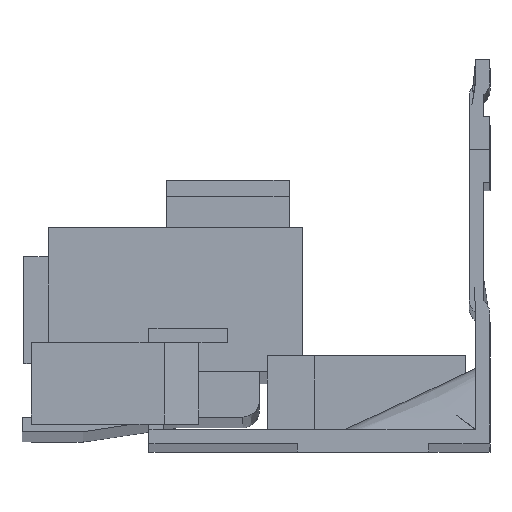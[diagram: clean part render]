
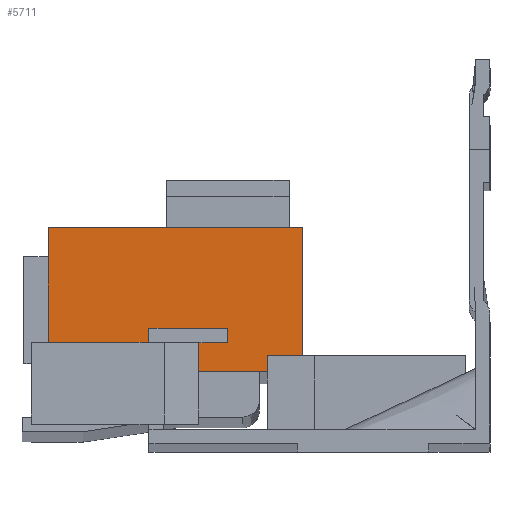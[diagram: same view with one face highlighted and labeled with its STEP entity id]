
A CAD part, front view. The second image highlights one B-rep face of the part: STEP entity #5711.
In plain terms, the highlighted planar face has unit normal (0, -1, 0).
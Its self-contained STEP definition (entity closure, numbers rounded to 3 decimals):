
#18 = VECTOR ( 'NONE', #4001, 1000. ) ;
#19 = LINE ( 'NONE', #4000, #18 ) ;
#86 = VECTOR ( 'NONE', #3959, 1000. ) ;
#87 = LINE ( 'NONE', #3958, #86 ) ;
#122 = VECTOR ( 'NONE', #3923, 1000. ) ;
#123 = LINE ( 'NONE', #3922, #122 ) ;
#124 = VECTOR ( 'NONE', #3921, 1000. ) ;
#125 = LINE ( 'NONE', #3920, #124 ) ;
#126 = VECTOR ( 'NONE', #3919, 1000. ) ;
#127 = LINE ( 'NONE', #3918, #126 ) ;
#128 = VECTOR ( 'NONE', #3917, 1000. ) ;
#129 = LINE ( 'NONE', #3916, #128 ) ;
#785 = ORIENTED_EDGE ( 'NONE', *, *, #2511, .T. ) ;
#786 = ORIENTED_EDGE ( 'NONE', *, *, #2509, .T. ) ;
#787 = ORIENTED_EDGE ( 'NONE', *, *, #2506, .T. ) ;
#788 = ORIENTED_EDGE ( 'NONE', *, *, #2504, .T. ) ;
#789 = ORIENTED_EDGE ( 'NONE', *, *, #2257, .T. ) ;
#790 = ORIENTED_EDGE ( 'NONE', *, *, #2228, .T. ) ;
#791 = ORIENTED_EDGE ( 'NONE', *, *, #2194, .F. ) ;
#792 = ORIENTED_EDGE ( 'NONE', *, *, #2526, .F. ) ;
#793 = ORIENTED_EDGE ( 'NONE', *, *, #2162, .F. ) ;
#794 = ORIENTED_EDGE ( 'NONE', *, *, #2160, .F. ) ;
#795 = ORIENTED_EDGE ( 'NONE', *, *, #2159, .F. ) ;
#796 = ORIENTED_EDGE ( 'NONE', *, *, #2158, .T. ) ;
#1090 = EDGE_LOOP ( 'NONE', ( #785, #786, #787, #788, #789, #790, #791, #792, #793, #794, #795, #796 ) ) ;
#1442 = VERTEX_POINT ( 'NONE', #3684 ) ;
#1466 = VERTEX_POINT ( 'NONE', #3708 ) ;
#1468 = VERTEX_POINT ( 'NONE', #3710 ) ;
#1484 = VERTEX_POINT ( 'NONE', #3726 ) ;
#1491 = VERTEX_POINT ( 'NONE', #3733 ) ;
#1531 = VERTEX_POINT ( 'NONE', #3773 ) ;
#1537 = VERTEX_POINT ( 'NONE', #3779 ) ;
#1592 = VERTEX_POINT ( 'NONE', #3834 ) ;
#1601 = VERTEX_POINT ( 'NONE', #3843 ) ;
#1618 = VERTEX_POINT ( 'NONE', #3860 ) ;
#1627 = VERTEX_POINT ( 'NONE', #3869 ) ;
#1632 = VERTEX_POINT ( 'NONE', #3874 ) ;
#1666 = LINE ( 'NONE', #4028, #1667 ) ;
#1667 = VECTOR ( 'NONE', #4029, 1000. ) ;
#1855 = LINE ( 'NONE', #4342, #1857 ) ;
#1857 = VECTOR ( 'NONE', #4343, 1000. ) ;
#1858 = LINE ( 'NONE', #4344, #1859 ) ;
#1859 = VECTOR ( 'NONE', #4345, 1000. ) ;
#1860 = LINE ( 'NONE', #4346, #1861 ) ;
#1861 = VECTOR ( 'NONE', #4347, 1000. ) ;
#1862 = LINE ( 'NONE', #4348, #1863 ) ;
#1863 = VECTOR ( 'NONE', #4349, 1000. ) ;
#1876 = LINE ( 'NONE', #4362, #1877 ) ;
#1877 = VECTOR ( 'NONE', #4363, 1000. ) ;
#2158 = EDGE_CURVE ( 'NONE', #1531, #1592, #129, .T. ) ;
#2159 = EDGE_CURVE ( 'NONE', #1531, #1632, #127, .T. ) ;
#2160 = EDGE_CURVE ( 'NONE', #1632, #1466, #125, .T. ) ;
#2162 = EDGE_CURVE ( 'NONE', #1466, #1618, #123, .T. ) ;
#2194 = EDGE_CURVE ( 'NONE', #1442, #1627, #87, .T. ) ;
#2228 = EDGE_CURVE ( 'NONE', #1468, #1627, #19, .T. ) ;
#2257 = EDGE_CURVE ( 'NONE', #1491, #1468, #1666, .T. ) ;
#2504 = EDGE_CURVE ( 'NONE', #1601, #1491, #1855, .T. ) ;
#2506 = EDGE_CURVE ( 'NONE', #1484, #1601, #1858, .T. ) ;
#2509 = EDGE_CURVE ( 'NONE', #1537, #1484, #1860, .T. ) ;
#2511 = EDGE_CURVE ( 'NONE', #1592, #1537, #1862, .T. ) ;
#2526 = EDGE_CURVE ( 'NONE', #1618, #1442, #1876, .T. ) ;
#2763 = FACE_OUTER_BOUND ( 'NONE', #1090, .T. ) ;
#3151 = AXIS2_PLACEMENT_3D ( 'NONE', #5544, #5545, #5546 ) ;
#3684 = CARTESIAN_POINT ( 'NONE',  ( -41.6, -20., -23.558 ) ) ;
#3708 = CARTESIAN_POINT ( 'NONE',  ( -32., -20., -21.858 ) ) ;
#3710 = CARTESIAN_POINT ( 'NONE',  ( -53.9, -20., -9.558 ) ) ;
#3726 = CARTESIAN_POINT ( 'NONE',  ( -27.15, -20., -25.181 ) ) ;
#3733 = CARTESIAN_POINT ( 'NONE',  ( -22.9, -20., -9.558 ) ) ;
#3773 = CARTESIAN_POINT ( 'NONE',  ( -35.5, -20., -23.608 ) ) ;
#3779 = CARTESIAN_POINT ( 'NONE',  ( -27.15, -20., -27.058 ) ) ;
#3834 = CARTESIAN_POINT ( 'NONE',  ( -35.5, -20., -27.058 ) ) ;
#3843 = CARTESIAN_POINT ( 'NONE',  ( -22.9, -20., -25.181 ) ) ;
#3860 = CARTESIAN_POINT ( 'NONE',  ( -41.6, -20., -21.858 ) ) ;
#3869 = CARTESIAN_POINT ( 'NONE',  ( -53.9, -20., -23.558 ) ) ;
#3874 = CARTESIAN_POINT ( 'NONE',  ( -32., -20., -23.608 ) ) ;
#3916 = CARTESIAN_POINT ( 'NONE',  ( -35.5, -20., -27.058 ) ) ;
#3917 = DIRECTION ( 'NONE',  ( 0., 0., -1. ) ) ;
#3918 = CARTESIAN_POINT ( 'NONE',  ( -32., -20., -23.608 ) ) ;
#3919 = DIRECTION ( 'NONE',  ( 1., 0., 0. ) ) ;
#3920 = CARTESIAN_POINT ( 'NONE',  ( -32., -20., -21.831 ) ) ;
#3921 = DIRECTION ( 'NONE',  ( 0., 0., 1. ) ) ;
#3922 = CARTESIAN_POINT ( 'NONE',  ( -41.6, -20., -21.858 ) ) ;
#3923 = DIRECTION ( 'NONE',  ( -1., 0., 0. ) ) ;
#3958 = CARTESIAN_POINT ( 'NONE',  ( -49.9, -20., -23.558 ) ) ;
#3959 = DIRECTION ( 'NONE',  ( -1., 0., 0. ) ) ;
#4000 = CARTESIAN_POINT ( 'NONE',  ( -53.9, -20., -29.558 ) ) ;
#4001 = DIRECTION ( 'NONE',  ( 0., 0., -1. ) ) ;
#4028 = CARTESIAN_POINT ( 'NONE',  ( -53.9, -20., -9.558 ) ) ;
#4029 = DIRECTION ( 'NONE',  ( -1., 0., 0. ) ) ;
#4342 = CARTESIAN_POINT ( 'NONE',  ( -22.9, -20., -27.058 ) ) ;
#4343 = DIRECTION ( 'NONE',  ( 0., 0., 1. ) ) ;
#4344 = CARTESIAN_POINT ( 'NONE',  ( -49.9, -20., -25.181 ) ) ;
#4345 = DIRECTION ( 'NONE',  ( 1., 0., 0. ) ) ;
#4346 = CARTESIAN_POINT ( 'NONE',  ( -27.15, -20., -27.058 ) ) ;
#4347 = DIRECTION ( 'NONE',  ( 0., 0., 1. ) ) ;
#4348 = CARTESIAN_POINT ( 'NONE',  ( -49.9, -20., -27.058 ) ) ;
#4349 = DIRECTION ( 'NONE',  ( 1., 0., 0. ) ) ;
#4362 = CARTESIAN_POINT ( 'NONE',  ( -41.6, -20., -35.931 ) ) ;
#4363 = DIRECTION ( 'NONE',  ( 0., 0., -1. ) ) ;
#5543 = PLANE ( 'NONE',  #3151 ) ;
#5544 = CARTESIAN_POINT ( 'NONE',  ( -49.9, -20., -27.058 ) ) ;
#5545 = DIRECTION ( 'NONE',  ( 0., 1., 0. ) ) ;
#5546 = DIRECTION ( 'NONE',  ( -1., 0., 0. ) ) ;
#5711 = ADVANCED_FACE ( 'NONE', ( #2763 ), #5543, .F. ) ;
